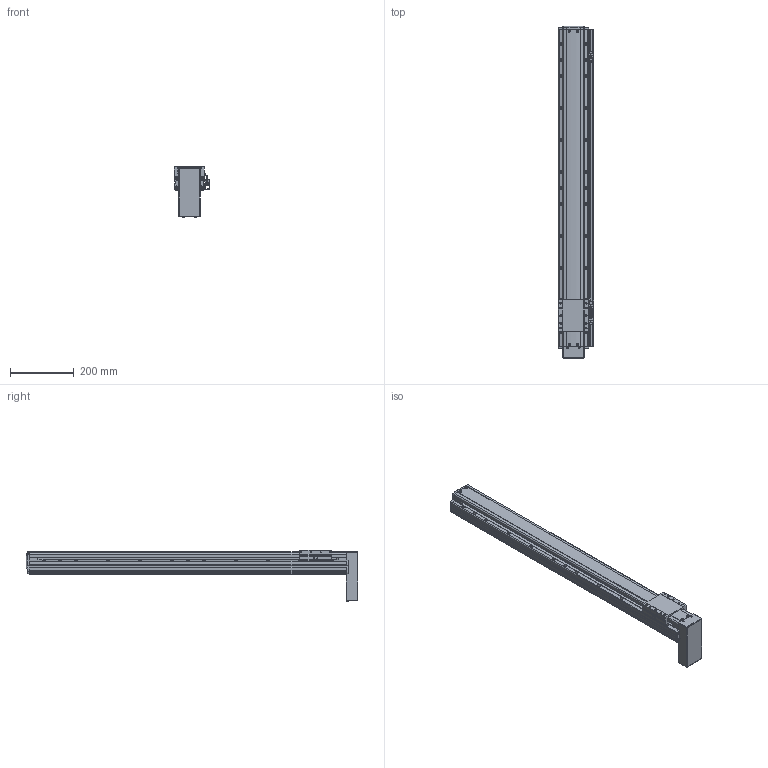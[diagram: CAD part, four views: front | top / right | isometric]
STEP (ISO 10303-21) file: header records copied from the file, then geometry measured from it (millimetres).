
FILE_DESCRIPTION(('STEP AP214'),'1');
FILE_NAME('Z:/Web/3D/PSA95/STP/PSA95-800 (3D)/PSA95ㅁㅁ-800PB+3SR.stp','2014-07-03T00:58:41',(' '),(' '),'Spatial InterOp 3D',' ',' ');
FILE_SCHEMA(('automotive_design'));
Length unit declared in the file: millimetre
Products named in the file (47): BASE; RRCV; 스크루 : Round - M4.0 x 10.0; 너트 : Square - M10.0 x 220.7419; RR1500; FRCV-090; 스크루 : Round - M4.0 x 6.0; SLBL-PA90; MTPL COVER; 스크루 : Round - M3.0 x 6.0; 1; 2; EE-SX674; SBK-SX674-352; M3.0 x 6.0; SRL-16x17-380L; SGD-PA95; 스크루 : Round - M3.0 x 8.0
Bounding box: 111 x 1037.5 x 159.57 mm (x, y, z)
Volume: 5850373.7 mm3; surface area: 690068 mm2
Topology: 47 solids, 47 shells, 2586 faces, 6861 edges, 4399 vertices
Faces by surface type: plane 1491, cylinder 741, cone 246, sphere 70, bspline 24, torus 14
Entity records: 103478 total; most frequent: CARTESIAN_POINT 17016, DIRECTION 13748, ORIENTED_EDGE 13434, EDGE_CURVE 6717, AXIS2_PLACEMENT_3D 4605, LINE 4538, VECTOR 4538, VERTEX_POINT 4399
